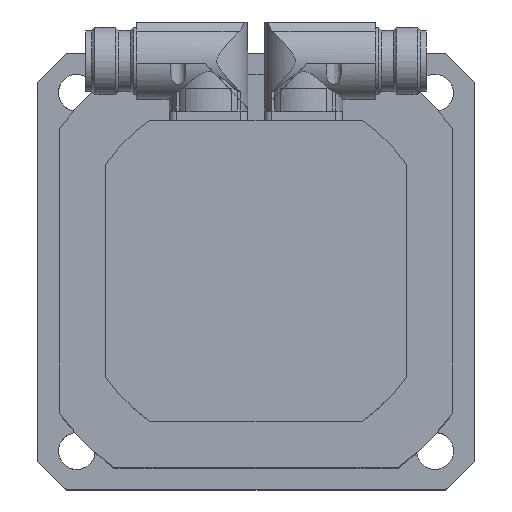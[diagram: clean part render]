
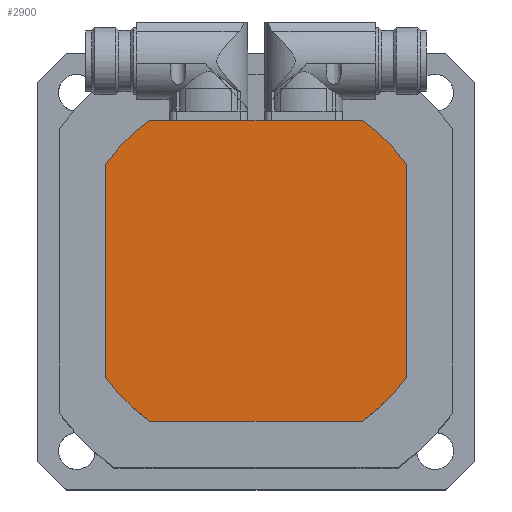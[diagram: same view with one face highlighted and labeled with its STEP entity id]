
A CAD part, top view. The second image highlights one B-rep face of the part: STEP entity #2900.
In plain terms, the highlighted planar face has unit normal (0, 0, 1).
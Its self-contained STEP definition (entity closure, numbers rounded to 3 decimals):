
#311=CIRCLE('',#3108,60.);
#312=CIRCLE('',#3110,60.);
#313=CIRCLE('',#3112,60.);
#314=CIRCLE('',#3114,60.);
#493=VERTEX_POINT('',#4787);
#495=VERTEX_POINT('',#4790);
#538=VERTEX_POINT('',#4919);
#539=VERTEX_POINT('',#4921);
#542=VERTEX_POINT('',#4930);
#543=VERTEX_POINT('',#4932);
#547=VERTEX_POINT('',#4946);
#548=VERTEX_POINT('',#4948);
#768=VECTOR('',#3554,1.);
#828=VECTOR('',#3647,1.);
#834=VECTOR('',#3654,1.);
#839=VECTOR('',#3669,1.);
#999=LINE('',#4789,#768);
#1059=LINE('',#4920,#828);
#1065=LINE('',#4931,#834);
#1070=LINE('',#4947,#839);
#1288=EDGE_CURVE('',#495,#493,#999,.T.);
#1352=EDGE_CURVE('',#539,#538,#1059,.T.);
#1358=EDGE_CURVE('',#543,#542,#1065,.T.);
#1367=EDGE_CURVE('',#548,#547,#1070,.T.);
#1369=EDGE_CURVE('',#543,#547,#311,.T.);
#1370=EDGE_CURVE('',#495,#542,#312,.T.);
#1371=EDGE_CURVE('',#539,#493,#313,.T.);
#1372=EDGE_CURVE('',#548,#538,#314,.T.);
#2017=ORIENTED_EDGE('',*,*,#1352,.T.);
#2018=ORIENTED_EDGE('',*,*,#1372,.F.);
#2019=ORIENTED_EDGE('',*,*,#1367,.T.);
#2020=ORIENTED_EDGE('',*,*,#1369,.F.);
#2021=ORIENTED_EDGE('',*,*,#1358,.T.);
#2022=ORIENTED_EDGE('',*,*,#1370,.F.);
#2023=ORIENTED_EDGE('',*,*,#1288,.T.);
#2024=ORIENTED_EDGE('',*,*,#1371,.F.);
#2500=EDGE_LOOP('',(#2017,#2018,#2019,#2020,#2021,#2022,#2023,#2024));
#2714=FACE_BOUND('',#2500,.T.);
#2900=ADVANCED_FACE('',(#2714),#5817,.F.);
#3108=AXIS2_PLACEMENT_3D('',#4951,#3673,#3674);
#3110=AXIS2_PLACEMENT_3D('',#4953,#3677,#3678);
#3112=AXIS2_PLACEMENT_3D('',#4955,#3681,#3682);
#3114=AXIS2_PLACEMENT_3D('',#4957,#3685,#3686);
#3115=AXIS2_PLACEMENT_3D('',#4958,#3687,$);
#3554=DIRECTION('',(-1.,0.,0.));
#3647=DIRECTION('',(0.,-1.,0.));
#3654=DIRECTION('',(0.,1.,0.));
#3669=DIRECTION('',(1.,0.,0.));
#3673=DIRECTION('',(0.,0.,-1.));
#3674=DIRECTION('',(-60.,0.,0.));
#3677=DIRECTION('',(0.,0.,-1.));
#3678=DIRECTION('',(-60.,0.,0.));
#3681=DIRECTION('',(0.,0.,-1.));
#3682=DIRECTION('',(-60.,0.,0.));
#3685=DIRECTION('',(0.,0.,-1.));
#3686=DIRECTION('',(-60.,0.,0.));
#3687=DIRECTION('',(0.,0.,-1.));
#4787=CARTESIAN_POINT('',(-34.627,49.,31.5));
#4789=CARTESIAN_POINT('',(34.627,49.,31.5));
#4790=CARTESIAN_POINT('',(34.627,49.,31.5));
#4919=CARTESIAN_POINT('',(-49.,-34.627,31.5));
#4920=CARTESIAN_POINT('',(-49.,34.627,31.5));
#4921=CARTESIAN_POINT('',(-49.,34.627,31.5));
#4930=CARTESIAN_POINT('',(49.,34.627,31.5));
#4931=CARTESIAN_POINT('',(49.,-34.627,31.5));
#4932=CARTESIAN_POINT('',(49.,-34.627,31.5));
#4946=CARTESIAN_POINT('',(34.627,-49.,31.5));
#4947=CARTESIAN_POINT('',(-34.627,-49.,31.5));
#4948=CARTESIAN_POINT('',(-34.627,-49.,31.5));
#4951=CARTESIAN_POINT('',(0.,0.,31.5));
#4953=CARTESIAN_POINT('',(0.,0.,31.5));
#4955=CARTESIAN_POINT('',(0.,0.,31.5));
#4957=CARTESIAN_POINT('',(0.,0.,31.5));
#4958=CARTESIAN_POINT('',(0.,0.,31.5));
#5817=PLANE('',#3115);
